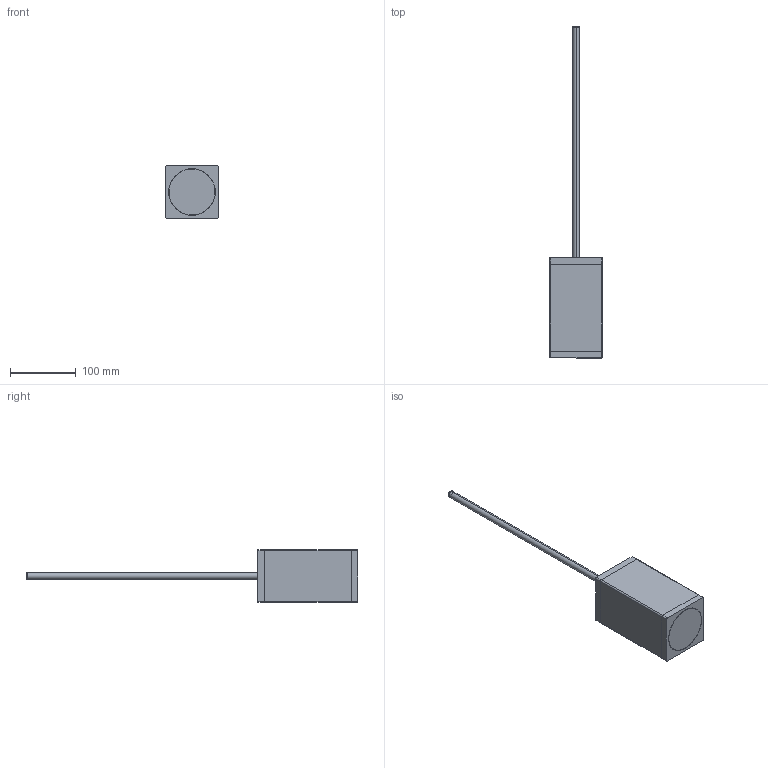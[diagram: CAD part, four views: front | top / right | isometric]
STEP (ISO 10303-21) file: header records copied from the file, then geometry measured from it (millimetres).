
FILE_DESCRIPTION (( 'STEP AP203' ), '1' );
FILE_NAME ('CWS5.STEP', '2021-04-13T08:29:21', ( '' ), ( '' ), 'SwSTEP 2.0', 'SolidWorks 2021', '' );
FILE_SCHEMA (( 'CONFIG_CONTROL_DESIGN' ));
Length unit declared in the file: millimetre
Products named in the file (14): CWS5; ASSIEME MANICO SCOPINO; C25.2356.00.0; C25.2355.00.0; C21.2358.00.0; C25.2309.00.0; FONDO NUOVO SCOPINO 3; C21.2357.00.0; C12.00.0063; C25.2310.00.0; TUBO ACCIAIO cm 13,2; C25.2285.00.0; C47.00.0127.06; C21.2359.00.0
Assembly tree (14 placements, depth 3):
  CWS5
    TUBO ACCIAIO cm 13,2
    C21.2359.00.0
    FONDO NUOVO SCOPINO 3  x2
    C21.2358.00.0
    ASSIEME MANICO SCOPINO
      C25.2355.00.0
      C25.2356.00.0
      C21.2357.00.0
      C25.2309.00.0
      C25.2310.00.0
      C47.00.0127.06
      C25.2285.00.0
      C12.00.0063
Bounding box: 80 x 503.7 x 80 mm (x, y, z)
Volume: 485494.5 mm3; surface area: 232611.4 mm2
Topology: 13 solids, 13 shells, 213 faces, 456 edges, 283 vertices
Faces by surface type: cylinder 92, plane 67, cone 40, torus 14
Entity records: 6602 total; most frequent: DIRECTION 1026, CARTESIAN_POINT 840, ORIENTED_EDGE 780, AXIS2_PLACEMENT_3D 429, EDGE_CURVE 390, VERTEX_POINT 243, CIRCLE 222, EDGE_LOOP 219
